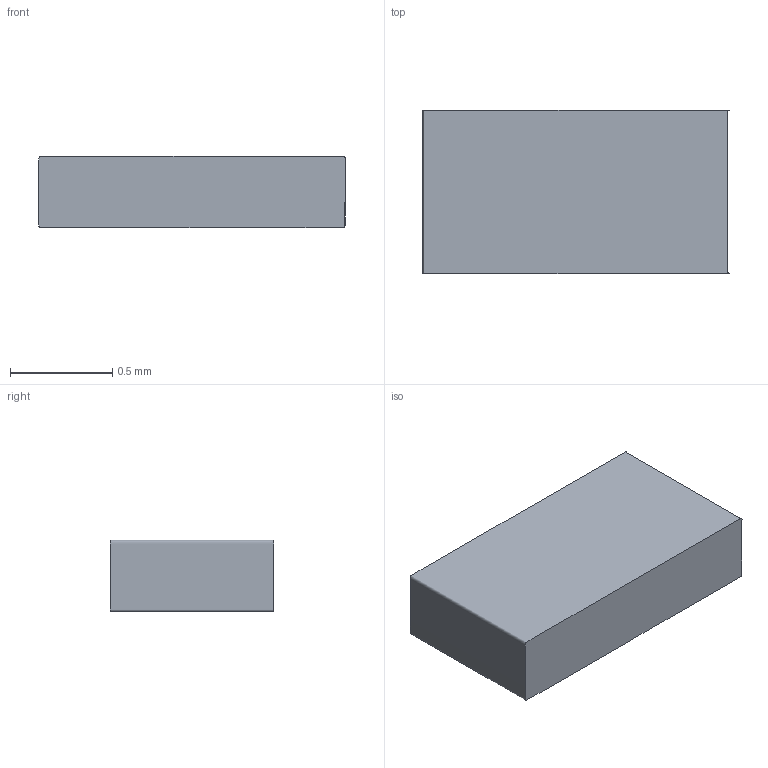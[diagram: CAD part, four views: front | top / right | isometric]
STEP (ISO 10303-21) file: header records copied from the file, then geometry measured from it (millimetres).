
FILE_DESCRIPTION(/* description */ ('STEP AP242 Edition 2','CAx-IF Rec.Pracs.---Representation and Presentation of Product Manufacturing Information (PMI)---4.0---2014-10-13','CAx-IF Rec.Pracs.---3D Tessellated Geometry---0.4---2014-09-14','2;1','CAx-IF Rec.Pracs.---User Defined Attributes---1.5---2016-08-15'),/* implementation_level */ '2;1');
FILE_NAME(/* name */ 'Drone Layout - Surface 387',/* time_stamp */ '2026-10-04T22:22:58Z',/* author */ (''),/* organization */ (''),/* preprocessor_version */ 'ST-DEVELOPER v20',/* originating_system */ 'ONSHAPE BY PTC INC, 1.221',/* authorisation */ ' ');
FILE_SCHEMA (('AP242_MANAGED_MODEL_BASED_3D_ENGINEERING_MIM_LF { 1 0 10303 442 3 1 4 }'));
Length unit declared in the file: metre
Products named in the file (1): RES0603 v1 (1):1__Body2
Bounding box: 1.5 x 0.8 x 0.35 mm (x, y, z)
Volume: 0.2 mm3; surface area: 3.8 mm2
Topology: 1 solids, 1 shells, 4 faces, 6 edges, 4 vertices
Faces by surface type: plane 2, bspline 2
Entity records: 217 total; most frequent: CARTESIAN_POINT 145, ORIENTED_EDGE 12, DIRECTION 7, EDGE_CURVE 6, B_SPLINE_CURVE_WITH_KNOTS 5, VERTEX_POINT 4, EDGE_LOOP 4, FACE_BOUND 4
